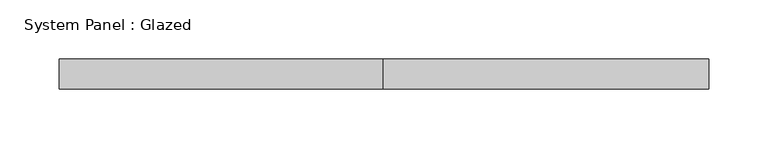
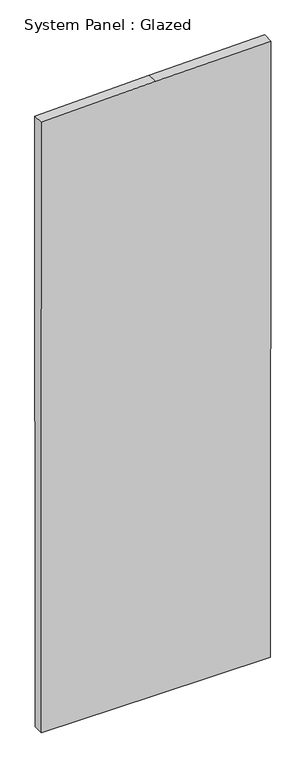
"""IFC4 building model written with IfcOpenShell, lengths in millimetres: plate geometry, System Panel : Glazed."""

from ifc_helpers import new_model, si_unit, frame, origin, place, context, project, spatial, polyline, outline, extrude, source, transform, mapped, element, save


def system_panel_glazed_ec8d24eb(model_context):
    return source(origin(), model_context, "Body", "SweptSolid", [
        extrude(outline(polyline([(0.0, -272.8621067), (0.0, -1.8128325), (0.0, 272.8625956), (1551.7437966, 273.6454883), (1546.6994014, -0.826794), (1538.2608635, -273.6454883), (0.0, -272.8621067)])), frame((0.0, -44.45, 0.0), z_axis=(0.0, 1.0, 0.0), x_axis=(0.0, 0.0, 1.0)), (0.0, 0.0, 1.0), 25.4),
    ])


if __name__ == "__main__":
    model = new_model("IFC4")
    model_context = context("Model", 3, world=origin())
    ifc_project = project(units=[si_unit("LENGTHUNIT", "METRE", prefix="MILLI")], contexts=[model_context])
    site = spatial("IfcSite", under=ifc_project)
    building = spatial("IfcBuilding", under=site)
    placement = place(None, origin())
    system_panel_glazed_shape = system_panel_glazed_ec8d24eb(model_context)
    element("IfcPlate", 1, ObjectType="System Panel : Glazed", at=placement, inside=building, context=model_context, shape_type="MappedRepresentation", body=[
        mapped(system_panel_glazed_shape, transform((0.0, 0.0, 0.0), x_axis=(1.0, 0.0, 0.0), y_axis=(0.0, 1.0, 0.0), z_axis=(0.0, 0.0, 1.0))),
    ])
    save(model, "model.ifc")
